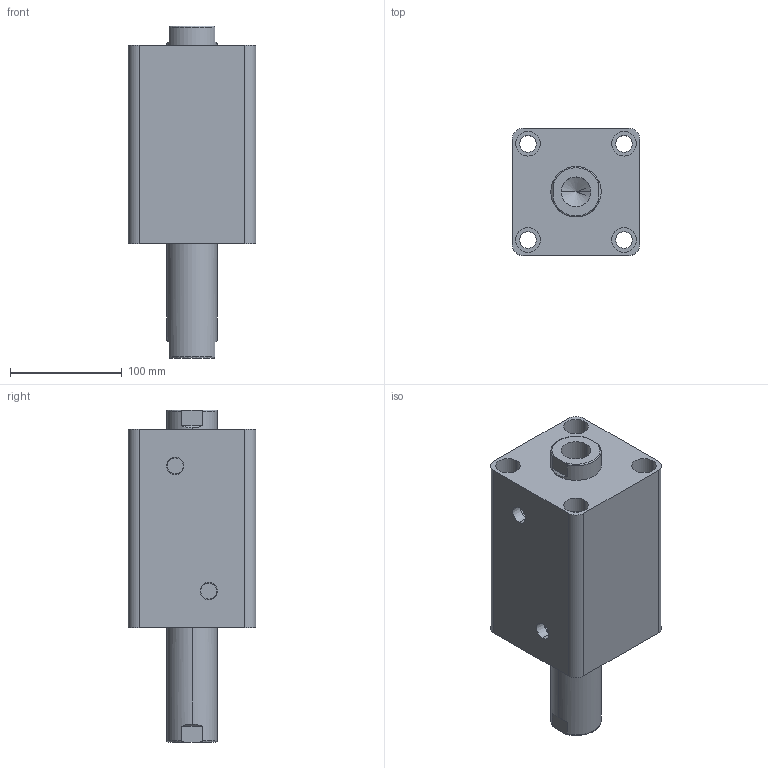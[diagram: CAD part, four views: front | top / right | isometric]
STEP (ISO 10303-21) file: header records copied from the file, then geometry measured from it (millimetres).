
FILE_DESCRIPTION (( 'STEP AP203' ), '1' );
FILE_NAME ('HTB-SW80-85N.STEP', '2019-10-07T10:26:34', ( '微软用户' ), ( '微软中国' ), 'SwSTEP 2.0', 'SolidWorks 2012', '' );
FILE_SCHEMA (( 'CONFIG_CONTROL_DESIGN' ));
Length unit declared in the file: millimetre
Products named in the file (3): HTB-SW80-85N; HTB-SW80-85N活塞杆; HTB-SW80-85掛极
Assembly tree (2 placements, depth 2):
  HTB-SW80-85N
    HTB-SW80-85掛极
    HTB-SW80-85N活塞杆
Bounding box: 114 x 114 x 297 mm (x, y, z)
Volume: 2008902.7 mm3; surface area: 241043.2 mm2
Topology: 2 solids, 2 shells, 100 faces, 228 edges, 146 vertices
Faces by surface type: cylinder 48, plane 32, torus 12, cone 8
Entity records: 3237 total; most frequent: CARTESIAN_POINT 595, DIRECTION 542, ORIENTED_EDGE 448, AXIS2_PLACEMENT_3D 229, EDGE_CURVE 224, VERTEX_POINT 146, EDGE_LOOP 128, CIRCLE 124
